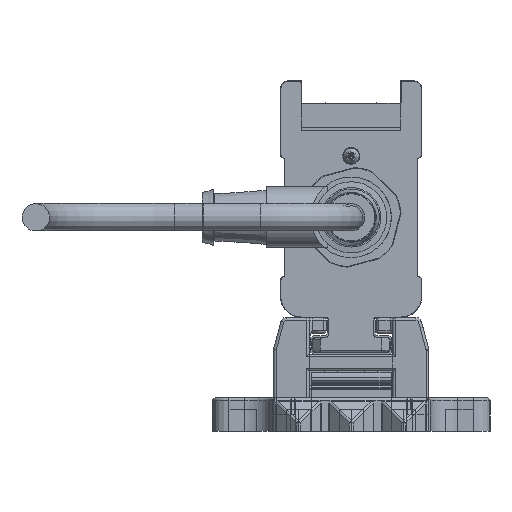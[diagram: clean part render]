
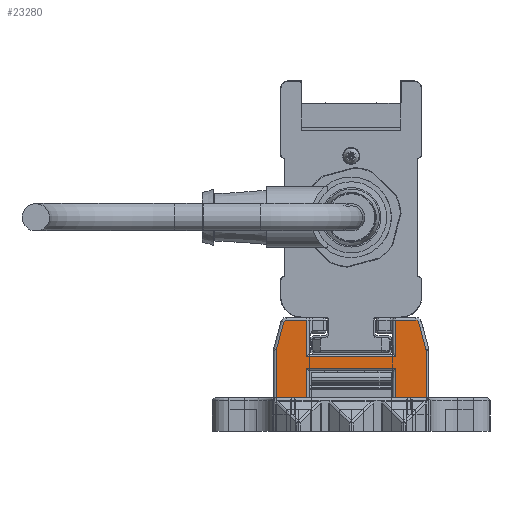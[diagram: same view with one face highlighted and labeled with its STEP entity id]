
A CAD part, left-side view. The second image highlights one B-rep face of the part: STEP entity #23280.
In plain terms, the highlighted planar face has unit normal (-1, 0, 0).
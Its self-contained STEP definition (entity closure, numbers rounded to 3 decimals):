
#23280=ADVANCED_FACE('', (#23290), #23300, .T.);
#141290=AXIS2_PLACEMENT_3D('Ax2Pl3d', #141300, #141310, #141320);
#141530=AXIS2_PLACEMENT_3D('Ax2Pl3d', #141540, #141550, #141560);
#146410=AXIS2_PLACEMENT_3D('Ax2Pl3d', #146420, #146430, #146440);
#151490=AXIS2_PLACEMENT_3D('Ax2Pl3d', #151500, #151510, #151520);
#161170=AXIS2_PLACEMENT_3D('Ax2Pl3d', #161180, #161190, #161200);
#583560=CARTESIAN_POINT('', (-747.669,-3046.345,
331.37));
#141300=CARTESIAN_POINT('HicPkt', (-747.669,-3045.379,
331.111));
#583570=CARTESIAN_POINT('', (-747.669,-3046.379,
331.111));
#583580=CARTESIAN_POINT('', (-747.669,-3045.037,336.255)
);
#583600=CARTESIAN_POINT('', (-747.669,-3045.037,336.255)
);
#583630=CARTESIAN_POINT('', (-747.669,-3044.554,
336.625));
#141540=CARTESIAN_POINT('HicPkt', (-747.669,-3044.554,
336.125));
#583850=CARTESIAN_POINT('', (-747.669,-3046.379,
322.625));
#583860=CARTESIAN_POINT('', (-747.669,-3040.881,
322.625));
#583870=CARTESIAN_POINT('', (-747.669,-3040.881,
322.625));
#583950=CARTESIAN_POINT('', (-747.669,-3024.881,
322.625));
#583960=CARTESIAN_POINT('', (-747.669,-3019.383,
322.625));
#583970=CARTESIAN_POINT('', (-747.669,-3019.383,
322.625));
#146420=CARTESIAN_POINT('HicPkt', (-747.669,-3021.209,
336.125));
#586440=CARTESIAN_POINT('', (-747.669,-3020.726,
336.255));
#586450=CARTESIAN_POINT('', (-747.669,-3021.209,
336.625));
#586460=CARTESIAN_POINT('', (-747.669,-3040.881,
330.025));
#586470=CARTESIAN_POINT('', (-747.669,-3024.881,
330.025));
#586480=CARTESIAN_POINT('', (-747.669,-3040.881,
330.025));
#586640=CARTESIAN_POINT('', (-747.669,-3040.881,
328.005));
#586650=CARTESIAN_POINT('', (-747.669,-3024.881,
328.005));
#586660=CARTESIAN_POINT('', (-747.669,-3024.881,
328.005));
#586670=CARTESIAN_POINT('', (-747.669,-3040.881,
328.005));
#586690=CARTESIAN_POINT('', (-747.669,-3024.881,
322.625));
#586700=CARTESIAN_POINT('', (-747.669,-3024.881,
330.025));
#586710=CARTESIAN_POINT('', (-747.669,-3024.881,
336.625));
#587560=CARTESIAN_POINT('', (-747.669,-3024.881,
336.625));
#587570=CARTESIAN_POINT('', (-747.669,-3020.726,
336.255));
#587580=CARTESIAN_POINT('', (-747.669,-3019.417,
331.37));
#587770=CARTESIAN_POINT('', (-747.669,-3019.383,
331.111));
#587780=CARTESIAN_POINT('', (-747.669,-3019.383,
331.111));
#151500=CARTESIAN_POINT('HicPkt', (-747.669,-3020.383,
331.111));
#588590=CARTESIAN_POINT('', (-747.669,-3046.379,
331.111));
#161180=CARTESIAN_POINT('HicPkt', (-747.669,-3044.554,
336.625));
#590390=CARTESIAN_POINT('', (-747.669,-3040.881,
336.625));
#590400=CARTESIAN_POINT('', (-747.669,-3040.881,
336.625));
#590410=CARTESIAN_POINT('', (-747.669,-3040.881,
336.625));
#675070=CIRCLE('Circle', #141290, 1.);
#675110=CIRCLE('Circle', #141530, 0.5);
#675690=CIRCLE('Circle', #146410, 0.5);
#676220=CIRCLE('Circle', #151490, 1.);
#141310=DIRECTION('Axis', (-1.,0.,
0.));
#141320=DIRECTION('RefDirection', (0.,
0.,-1.));
#942570=DIRECTION('', (0.,0.259,
0.966));
#141550=DIRECTION('Axis', (-1.,0.,
0.));
#141560=DIRECTION('RefDirection', (0.,
0.,-1.));
#942680=DIRECTION('', (0.,1.,0.));
#942720=DIRECTION('', (0.,1.,0.));
#146430=DIRECTION('Axis', (1.,0.,
0.));
#146440=DIRECTION('RefDirection', (0.,
0.,-1.));
#943910=DIRECTION('', (0.,-1.,0.));
#944010=DIRECTION('', (0.,1.,0.));
#944020=DIRECTION('', (0.,0.,1.));
#944040=DIRECTION('', (0.,0.,-1.));
#944050=DIRECTION('', (0.,0.,-1.));
#944480=DIRECTION('', (0.,-1.,0.));
#944490=DIRECTION('', (0.,-0.259,0.966));
#944580=DIRECTION('', (0.,0.,1.));
#151510=DIRECTION('Axis', (1.,0.,
0.));
#151520=DIRECTION('RefDirection', (0.,
0.,-1.));
#944950=DIRECTION('', (0.,0.,1.));
#161190=DIRECTION('Axis', (-1.,0.,
0.));
#161200=DIRECTION('RefDirection', (0.,
0.,-1.));
#945790=DIRECTION('', (0.,1.,0.));
#945800=DIRECTION('', (0.,0.,1.));
#1009400=EDGE_CURVE('', #1009410, #1009390, #675070, .T.);
#1009460=EDGE_CURVE('', #1009390, #1009440, #1009470, .T.);
#1009530=EDGE_CURVE('', #1009440, #1009520, #675110, .T.);
#1009980=EDGE_CURVE('', #1009970, #1009990, #1010000, .T.);
#1010140=EDGE_CURVE('', #1010130, #1010150, #1010160, .T.);
#1014500=EDGE_CURVE('', #1014510, #1014520, #675690, .T.);
#1014550=EDGE_CURVE('', #1014560, #1014570, #1014580, .T.);
#1014920=EDGE_CURVE('', #1014900, #1014930, #1014940, .T.);
#1014970=EDGE_CURVE('', #1009990, #1014900, #1014980, .T.);
#1015010=EDGE_CURVE('', #1014930, #1010130, #1015020, .T.);
#1015030=EDGE_CURVE('', #1015040, #1014560, #1015050, .T.);
#1016870=EDGE_CURVE('', #1014520, #1015040, #1016880, .T.);
#1016940=EDGE_CURVE('', #1016950, #1014510, #1016960, .T.);
#1017380=EDGE_CURVE('', #1010150, #1017390, #1017400, .T.);
#1017420=EDGE_CURVE('', #1017390, #1016950, #676220, .T.);
#1019130=EDGE_CURVE('', #1009970, #1009410, #1019140, .T.);
#1022940=EDGE_CURVE('', #1009520, #1022950, #1022960, .T.);
#1022970=EDGE_CURVE('', #1014570, #1022950, #1022980, .T.);
#1216860=EDGE_LOOP('Edge_loop', (#1216870,#1216880,#1216890,#1216900,
#1216910,#1216920,#1216930,#1216940,#1216950,#1216960,#1216970,
#1216980,#1216990,#1217000,#1217010,#1217020,#1217030,#1217040));
#23290=FACE_OUTER_BOUND('Face_outer_bound', #1216860, .T.);
#1009470=LINE('Line', #583600, #1391440);
#1010000=LINE('Line', #583860, #1391550);
#1010160=LINE('Line', #583960, #1391590);
#1014580=LINE('Line', #586460, #1392780);
#1014940=LINE('Line', #586650, #1392880);
#1014980=LINE('Line', #586670, #1392890);
#1015020=LINE('Line', #586690, #1392910);
#1015050=LINE('Line', #586700, #1392920);
#1016880=LINE('Line', #587560, #1393350);
#1016960=LINE('Line', #587570, #1393360);
#1017400=LINE('Line', #587770, #1393450);
#1019140=LINE('Line', #588590, #1393820);
#1022960=LINE('Line', #590390, #1394660);
#1022980=LINE('Line', #590410, #1394670);
#1216870=ORIENTED_EDGE('', *, *, #1022940, .T.);
#1216880=ORIENTED_EDGE('', *, *, #1022970, .F.);
#1216890=ORIENTED_EDGE('', *, *, #1014550, .F.);
#1216900=ORIENTED_EDGE('', *, *, #1015030, .F.);
#1216910=ORIENTED_EDGE('', *, *, #1016870, .F.);
#1216920=ORIENTED_EDGE('', *, *, #1014500, .F.);
#1216930=ORIENTED_EDGE('', *, *, #1016940, .F.);
#1216940=ORIENTED_EDGE('', *, *, #1017420, .F.);
#1216950=ORIENTED_EDGE('', *, *, #1017380, .F.);
#1216960=ORIENTED_EDGE('', *, *, #1010140, .F.);
#1216970=ORIENTED_EDGE('', *, *, #1015010, .F.);
#1216980=ORIENTED_EDGE('', *, *, #1014920, .F.);
#1216990=ORIENTED_EDGE('', *, *, #1014970, .F.);
#1217000=ORIENTED_EDGE('', *, *, #1009980, .F.);
#1217010=ORIENTED_EDGE('', *, *, #1019130, .T.);
#1217020=ORIENTED_EDGE('', *, *, #1009400, .T.);
#1217030=ORIENTED_EDGE('', *, *, #1009460, .T.);
#1217040=ORIENTED_EDGE('', *, *, #1009530, .T.);
#23300=PLANE('Plane', #161170);
#1391440=VECTOR('', #942570, 5.057);
#1391550=VECTOR('', #942680, 5.498);
#1391590=VECTOR('', #942720, 5.498);
#1392780=VECTOR('', #943910, 16.);
#1392880=VECTOR('', #944010, 16.);
#1392890=VECTOR('', #944020, 5.38);
#1392910=VECTOR('', #944040, 5.38);
#1392920=VECTOR('', #944050, 6.6);
#1393350=VECTOR('', #944480, 3.672);
#1393360=VECTOR('', #944490, 5.057);
#1393450=VECTOR('', #944580, 8.486);
#1393820=VECTOR('', #944950, 8.486);
#1394660=VECTOR('', #945790, 3.672);
#1394670=VECTOR('', #945800, 6.6);
#1009390=VERTEX_POINT('', #583560);
#1009410=VERTEX_POINT('', #583570);
#1009440=VERTEX_POINT('', #583580);
#1009520=VERTEX_POINT('', #583630);
#1009970=VERTEX_POINT('', #583850);
#1009990=VERTEX_POINT('', #583870);
#1010130=VERTEX_POINT('', #583950);
#1010150=VERTEX_POINT('', #583970);
#1014510=VERTEX_POINT('', #586440);
#1014520=VERTEX_POINT('', #586450);
#1014560=VERTEX_POINT('', #586470);
#1014570=VERTEX_POINT('', #586480);
#1014900=VERTEX_POINT('', #586640);
#1014930=VERTEX_POINT('', #586660);
#1015040=VERTEX_POINT('', #586710);
#1016950=VERTEX_POINT('', #587580);
#1017390=VERTEX_POINT('', #587780);
#1022950=VERTEX_POINT('', #590400);
